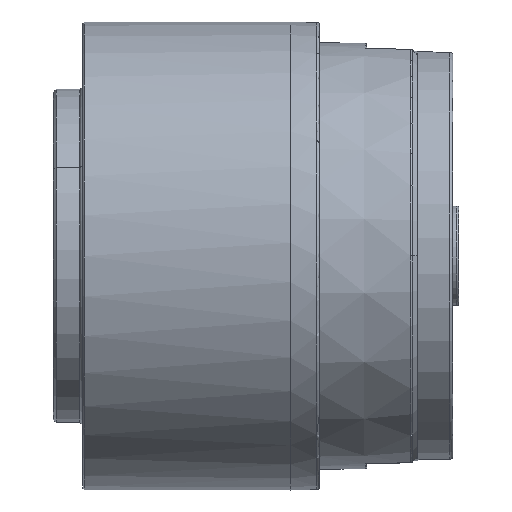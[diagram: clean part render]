
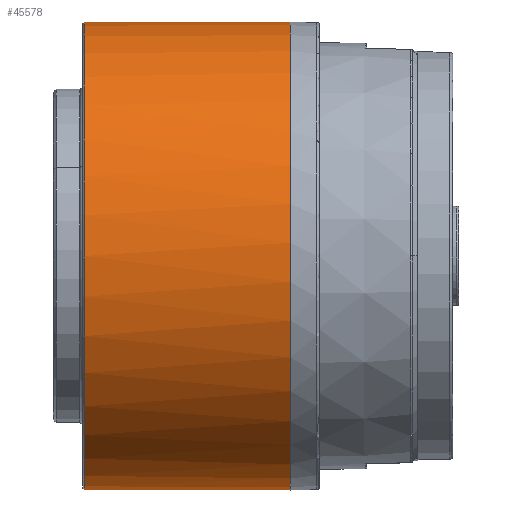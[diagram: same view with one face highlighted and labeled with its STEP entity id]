
A CAD part, left-side view. The second image highlights one B-rep face of the part: STEP entity #45578.
In plain terms, the highlighted cylindrical face has radius 40 mm (diameter 80 mm), a partial arc.
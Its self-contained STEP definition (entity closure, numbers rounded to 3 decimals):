
#540 = CIRCLE ( 'NONE', #51180, 40. ) ;
#2015 = DIRECTION ( 'NONE',  ( 1., 0., 0. ) ) ;
#2751 = VERTEX_POINT ( 'NONE', #6668 ) ;
#3590 = DIRECTION ( 'NONE',  ( 0., 1., 0. ) ) ;
#3849 = AXIS2_PLACEMENT_3D ( 'NONE', #68762, #75223, #2015 ) ;
#4057 = DIRECTION ( 'NONE',  ( 0., 0., 1. ) ) ;
#4260 = CARTESIAN_POINT ( 'NONE',  ( -28.286, -20.75, -28.283 ) ) ;
#4469 = CARTESIAN_POINT ( 'NONE',  ( 0., -20.75, 0. ) ) ;
#5670 = CIRCLE ( 'NONE', #3849, 40. ) ;
#5852 = CARTESIAN_POINT ( 'NONE',  ( 0., -20.75, 40. ) ) ;
#6668 = CARTESIAN_POINT ( 'NONE',  ( 0., -20.75, -40. ) ) ;
#7881 = AXIS2_PLACEMENT_3D ( 'NONE', #4469, #3590, #64455 ) ;
#8928 = EDGE_CURVE ( 'NONE', #2751, #35090, #67660, .T. ) ;
#9987 = ORIENTED_EDGE ( 'NONE', *, *, #8928, .F. ) ;
#10375 = EDGE_LOOP ( 'NONE', ( #9987, #22499, #49676, #54111, #20972, #23524 ) ) ;
#12748 = CARTESIAN_POINT ( 'NONE',  ( 0., -20.75, 40. ) ) ;
#14545 = CYLINDRICAL_SURFACE ( 'NONE', #82516, 40. ) ;
#18950 = EDGE_CURVE ( 'NONE', #2751, #28278, #43348, .T. ) ;
#20972 = ORIENTED_EDGE ( 'NONE', *, *, #57860, .F. ) ;
#22499 = ORIENTED_EDGE ( 'NONE', *, *, #18950, .T. ) ;
#23524 = ORIENTED_EDGE ( 'NONE', *, *, #74967, .F. ) ;
#23902 = CARTESIAN_POINT ( 'NONE',  ( 0., -20.75, 0. ) ) ;
#24034 = VECTOR ( 'NONE', #52684, 1000. ) ;
#28278 = VERTEX_POINT ( 'NONE', #4260 ) ;
#34711 = CARTESIAN_POINT ( 'NONE',  ( 0., 14.45, 0. ) ) ;
#35090 = VERTEX_POINT ( 'NONE', #57652 ) ;
#42446 = CARTESIAN_POINT ( 'NONE',  ( -40., 14.45, 0. ) ) ;
#43348 = CIRCLE ( 'NONE', #7881, 40. ) ;
#44996 = LINE ( 'NONE', #5852, #24034 ) ;
#45578 = ADVANCED_FACE ( 'NONE', ( #45849 ), #14545, .T. ) ;
#45849 = FACE_OUTER_BOUND ( 'NONE', #10375, .T. ) ;
#49273 = EDGE_CURVE ( 'NONE', #83114, #55751, #44996, .T. ) ;
#49676 = ORIENTED_EDGE ( 'NONE', *, *, #61543, .T. ) ;
#51180 = AXIS2_PLACEMENT_3D ( 'NONE', #34711, #56132, #81608 ) ;
#51945 = VECTOR ( 'NONE', #68558, 1000. ) ;
#52684 = DIRECTION ( 'NONE',  ( 0., 1., 0. ) ) ;
#54111 = ORIENTED_EDGE ( 'NONE', *, *, #49273, .T. ) ;
#55054 = DIRECTION ( 'NONE',  ( 0., 1., 0. ) ) ;
#55339 = DIRECTION ( 'NONE',  ( 0., 0., 1. ) ) ;
#55751 = VERTEX_POINT ( 'NONE', #86061 ) ;
#56132 = DIRECTION ( 'NONE',  ( 0., 1., 0. ) ) ;
#57652 = CARTESIAN_POINT ( 'NONE',  ( 0., 14.45, -40. ) ) ;
#57860 = EDGE_CURVE ( 'NONE', #80821, #55751, #5670, .T. ) ;
#61543 = EDGE_CURVE ( 'NONE', #28278, #83114, #67578, .T. ) ;
#64455 = DIRECTION ( 'NONE',  ( 0., 0., 1. ) ) ;
#67578 = CIRCLE ( 'NONE', #71600, 40. ) ;
#67660 = LINE ( 'NONE', #75021, #51945 ) ;
#68231 = CARTESIAN_POINT ( 'NONE',  ( 0., -20.75, 0. ) ) ;
#68558 = DIRECTION ( 'NONE',  ( 0., 1., 0. ) ) ;
#68762 = CARTESIAN_POINT ( 'NONE',  ( 0., 14.45, 0. ) ) ;
#71600 = AXIS2_PLACEMENT_3D ( 'NONE', #68231, #55054, #55339 ) ;
#74967 = EDGE_CURVE ( 'NONE', #35090, #80821, #540, .T. ) ;
#75021 = CARTESIAN_POINT ( 'NONE',  ( 0., -20.75, -40. ) ) ;
#75223 = DIRECTION ( 'NONE',  ( 0., 1., 0. ) ) ;
#80821 = VERTEX_POINT ( 'NONE', #42446 ) ;
#81608 = DIRECTION ( 'NONE',  ( 1., 0., 0. ) ) ;
#82516 = AXIS2_PLACEMENT_3D ( 'NONE', #23902, #83386, #4057 ) ;
#83114 = VERTEX_POINT ( 'NONE', #12748 ) ;
#83386 = DIRECTION ( 'NONE',  ( 0., 1., 0. ) ) ;
#86061 = CARTESIAN_POINT ( 'NONE',  ( 0., 14.45, 40. ) ) ;
